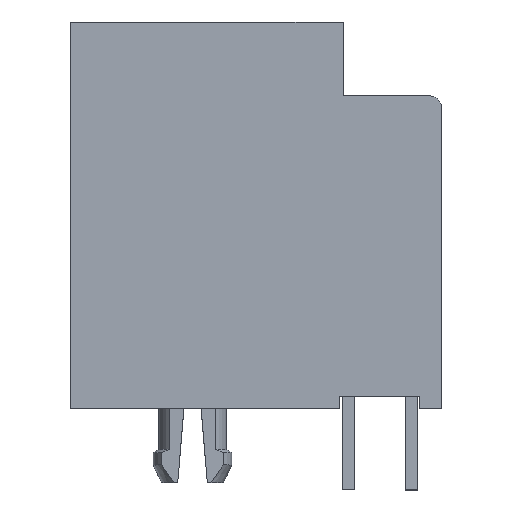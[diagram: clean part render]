
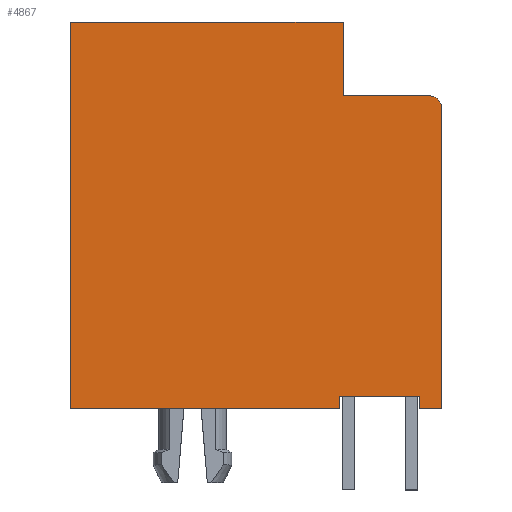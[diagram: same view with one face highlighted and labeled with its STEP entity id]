
A CAD part, top view. The second image highlights one B-rep face of the part: STEP entity #4867.
In plain terms, the highlighted planar face has unit normal (0, 0, 1).
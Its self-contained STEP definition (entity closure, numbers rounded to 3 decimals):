
#1458=DIRECTION('',(0.,1.,0.));
#1459=VECTOR('',#1458,12.2);
#1460=CARTESIAN_POINT('',(10.12,-7.85,6.605));
#1461=LINE('',#1460,#1459);
#1462=DIRECTION('',(1.,0.,0.));
#1463=VECTOR('',#1462,0.9);
#1464=CARTESIAN_POINT('',(9.22,-7.85,6.605));
#1465=LINE('',#1464,#1463);
#1466=DIRECTION('',(0.,-1.,0.));
#1467=VECTOR('',#1466,0.5);
#1468=CARTESIAN_POINT('',(9.22,-7.35,6.605));
#1469=LINE('',#1468,#1467);
#1470=DIRECTION('',(1.,0.,0.));
#1471=VECTOR('',#1470,3.25);
#1472=CARTESIAN_POINT('',(5.97,-7.35,6.605));
#1473=LINE('',#1472,#1471);
#1474=DIRECTION('',(0.,1.,0.));
#1475=VECTOR('',#1474,0.5);
#1476=CARTESIAN_POINT('',(5.97,-7.85,6.605));
#1477=LINE('',#1476,#1475);
#1478=DIRECTION('',(1.,0.,0.));
#1479=VECTOR('',#1478,10.93);
#1480=CARTESIAN_POINT('',(-4.96,-7.85,6.605));
#1481=LINE('',#1480,#1479);
#1482=DIRECTION('',(0.,-1.,0.));
#1483=VECTOR('',#1482,15.7);
#1484=CARTESIAN_POINT('',(-4.96,7.85,6.605));
#1485=LINE('',#1484,#1483);
#1486=DIRECTION('',(-1.,0.,0.));
#1487=VECTOR('',#1486,11.08);
#1488=CARTESIAN_POINT('',(6.12,7.85,6.605));
#1489=LINE('',#1488,#1487);
#1490=DIRECTION('',(0.,1.,0.));
#1491=VECTOR('',#1490,3.);
#1492=CARTESIAN_POINT('',(6.12,4.85,6.605));
#1493=LINE('',#1492,#1491);
#1494=DIRECTION('',(-1.,0.,0.));
#1495=VECTOR('',#1494,3.5);
#1496=CARTESIAN_POINT('',(9.62,4.85,6.605));
#1497=LINE('',#1496,#1495);
#1498=CARTESIAN_POINT('',(9.62,4.35,6.605));
#1499=DIRECTION('',(0.,0.,1.));
#1500=DIRECTION('',(1.,0.,0.));
#1501=AXIS2_PLACEMENT_3D('',#1498,#1499,#1500);
#2125=CARTESIAN_POINT('',(10.12,-7.85,6.605));
#2126=CARTESIAN_POINT('',(10.12,4.35,6.605));
#2127=VERTEX_POINT('',#2125);
#2128=VERTEX_POINT('',#2126);
#2129=CARTESIAN_POINT('',(9.62,4.85,6.605));
#2130=CARTESIAN_POINT('',(6.12,4.85,6.605));
#2131=VERTEX_POINT('',#2129);
#2132=VERTEX_POINT('',#2130);
#2133=CARTESIAN_POINT('',(6.12,7.85,6.605));
#2134=VERTEX_POINT('',#2133);
#2135=CARTESIAN_POINT('',(-4.96,7.85,6.605));
#2136=VERTEX_POINT('',#2135);
#2137=CARTESIAN_POINT('',(-4.96,-7.85,6.605));
#2138=VERTEX_POINT('',#2137);
#2139=CARTESIAN_POINT('',(5.97,-7.85,6.605));
#2140=VERTEX_POINT('',#2139);
#2141=CARTESIAN_POINT('',(5.97,-7.35,6.605));
#2142=VERTEX_POINT('',#2141);
#2143=CARTESIAN_POINT('',(9.22,-7.35,6.605));
#2144=VERTEX_POINT('',#2143);
#2145=CARTESIAN_POINT('',(9.22,-7.85,6.605));
#2146=VERTEX_POINT('',#2145);
#4847=CARTESIAN_POINT('',(0.,0.,6.605));
#4848=DIRECTION('',(0.,0.,1.));
#4849=DIRECTION('',(1.,0.,0.));
#4850=AXIS2_PLACEMENT_3D('',#4847,#4848,#4849);
#4851=PLANE('',#4850);
#4852=ORIENTED_EDGE('',*,*,#2790,.F.);
#4854=ORIENTED_EDGE('',*,*,#4853,.F.);
#4856=ORIENTED_EDGE('',*,*,#4855,.F.);
#4857=ORIENTED_EDGE('',*,*,#3024,.F.);
#4858=ORIENTED_EDGE('',*,*,#3132,.F.);
#4859=ORIENTED_EDGE('',*,*,#3922,.F.);
#4860=ORIENTED_EDGE('',*,*,#4459,.F.);
#4861=ORIENTED_EDGE('',*,*,#4583,.F.);
#4862=ORIENTED_EDGE('',*,*,#4620,.F.);
#4863=ORIENTED_EDGE('',*,*,#4803,.F.);
#4864=ORIENTED_EDGE('',*,*,#4841,.F.);
#4865=EDGE_LOOP('',(#4852,#4854,#4856,#4857,#4858,#4859,#4860,#4861,#4862,#4863,
#4864));
#4866=FACE_OUTER_BOUND('',#4865,.F.);
#4867=ADVANCED_FACE('',(#4866),#4851,.T.);
#1502=CIRCLE('',#1501,0.5);
#2790=EDGE_CURVE('',#2127,#2128,#1461,.T.);
#3024=EDGE_CURVE('',#2142,#2144,#1473,.T.);
#3132=EDGE_CURVE('',#2140,#2142,#1477,.T.);
#3922=EDGE_CURVE('',#2138,#2140,#1481,.T.);
#4459=EDGE_CURVE('',#2136,#2138,#1485,.T.);
#4583=EDGE_CURVE('',#2134,#2136,#1489,.T.);
#4620=EDGE_CURVE('',#2132,#2134,#1493,.T.);
#4803=EDGE_CURVE('',#2131,#2132,#1497,.T.);
#4841=EDGE_CURVE('',#2128,#2131,#1502,.T.);
#4853=EDGE_CURVE('',#2146,#2127,#1465,.T.);
#4855=EDGE_CURVE('',#2144,#2146,#1469,.T.);
